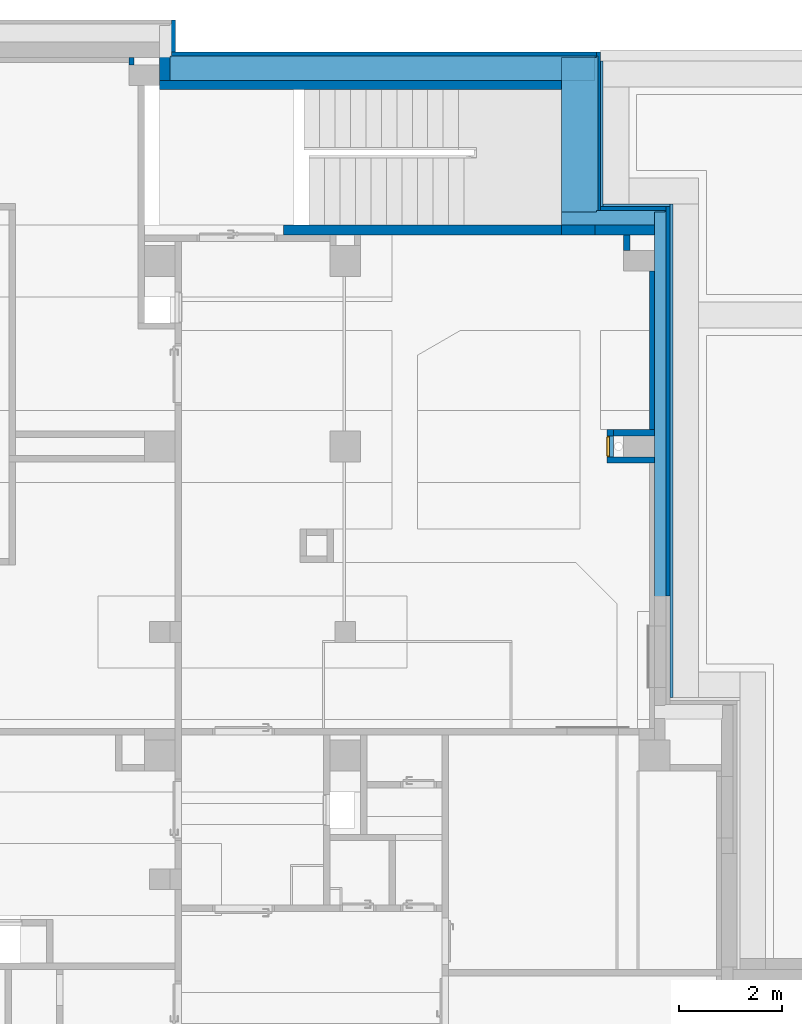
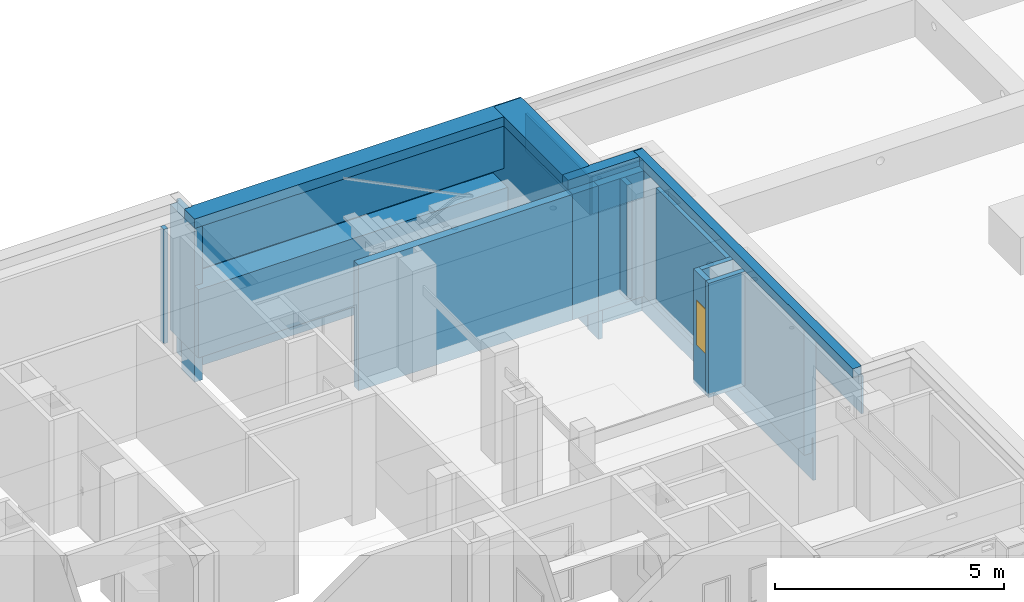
# One storey, part 42 of 84: 20 walls, 1 window, 1 opening.
"""IFC4 building model written with IfcOpenShell, lengths in metres."""

from ifc_helpers import new_model, entity, si_unit, converted_unit, derived_unit, frame, frame_2d, origin, origin_with_axes, place, context, subcontext, project, spatial, polyline, rectangle, outline, extrude, clip, bounded_halfspace, faceted_brep, source, transform, mapped, material, layer, layer_set, layer_usage, element, fill, save


model = new_model("IFC4")

# Units and contexts
model_context = context("Model", 3, precision=1e-05, world=origin())
body_context = subcontext(model_context, "Body", "Model", "MODEL_VIEW")
ifc_project = project(units=[si_unit("LENGTHUNIT", "METRE"), si_unit("AREAUNIT", "SQUARE_METRE"), si_unit("VOLUMEUNIT", "CUBIC_METRE"), si_unit("MASSUNIT", "GRAM", prefix="KILO"), converted_unit("PLANEANGLEUNIT", "DEGREE", entity("IfcPlaneAngleMeasure", 0.0174532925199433), si_unit("PLANEANGLEUNIT", "RADIAN"), dimensions=[0, 0, 0, 0, 0, 0, 0]), derived_unit("THERMALTRANSMITTANCEUNIT", [(si_unit("POWERUNIT", "WATT"), 1), (si_unit("THERMODYNAMICTEMPERATUREUNIT", "KELVIN"), -1), (si_unit("LENGTHUNIT", "METRE"), -2)]), derived_unit("VOLUMETRICFLOWRATEUNIT", [(si_unit("LENGTHUNIT", "METRE"), 3), (converted_unit("TIMEUNIT", "hour", entity("IfcTimeMeasure", 3600.0), si_unit("TIMEUNIT", "SECOND"), dimensions=[0, 0, 1, 0, 0, 0, 0]), -1), (si_unit("LENGTHUNIT", "METRE"), -1)])], contexts=[model_context])

# Site, building, storey
site_placement = place(None, origin())
site = spatial("IfcSite", under=ifc_project, at=site_placement, Name="3. ASŘ", CompositionType="ELEMENT")
building_placement = place(site_placement, origin())
building = spatial("IfcBuilding", under=site, at=building_placement, Name="Pavilon C", CompositionType="ELEMENT")
storey_placement = place(building_placement, frame((0.0, 0.0, -3.3)))
storey = spatial("IfcBuildingStorey", under=building, at=storey_placement, Name="Půdorys 1.PP", CompositionType="ELEMENT", Elevation=-3.3)

# Walls
ifc_material_1 = material(Name="ZDIVO Z CDm")
ifc_layer_1 = layer(ifc_material_1, 0.125)
ifc_layer_set_1 = layer_set([ifc_layer_1])
ifc_layer_usage_1 = layer_usage(ifc_layer_set_1, "AXIS2", "POSITIVE", 0.0)
wall_1_placement = place(storey_placement, frame((49.35, 29.3, -0.1), z_axis=(0.0, 0.0, 1.0), x_axis=(0.0, -1.0, 0.0)))
element("IfcWall", 1, at=wall_1_placement, inside=storey, material=ifc_layer_usage_1, Name="ZDIVO Z CDm", context=body_context, shape_type="SweptSolid", body=[
    extrude(rectangle(XDim=0.3, YDim=0.125, at=frame_2d((0.15, 0.0625), x_axis=(1.0, 0.0))), origin_with_axes(), (0.0, 0.0, 1.0), 3.05),
])
ifc_material_2 = material(Name="ZELEZOBETONOVÁ KCE")
ifc_layer_2 = layer(ifc_material_2, 0.2)
ifc_layer_set_2 = layer_set([ifc_layer_2])
ifc_layer_usage_2 = layer_usage(ifc_layer_set_2, "AXIS2", "POSITIVE", 0.0)
wall_2_placement = place(storey_placement, frame((48.15, 29.5, -0.4), z_axis=(0.0, 0.0, 1.0), x_axis=(-1.0, 0.0, 0.0)))
element("IfcWall", 2, at=wall_2_placement, inside=storey, material=ifc_layer_usage_2, Name="ZELEZOBETONOVÁ KCE", context=body_context, shape_type="SweptSolid", body=[
    extrude(rectangle(XDim=5.4, YDim=0.2, at=frame_2d((2.7, 0.1), x_axis=(1.0, 0.0))), origin_with_axes(), (0.0, 0.0, 1.0), 3.35),
])
ifc_material_3 = material(Name="ZELEZOBETONOVÁ KCE")
ifc_layer_3 = layer(ifc_material_3, 0.2)
ifc_material_4 = material(Name="LIGNOPOR")
ifc_layer_4 = layer(ifc_material_4, 0.025)
ifc_material_5 = material(Name="PÓROBETONOVÉ ZDIVO")
ifc_layer_5 = layer(ifc_material_5, 0.08)
ifc_layer_set_3 = layer_set([ifc_layer_3, ifc_layer_4, ifc_layer_5])
ifc_layer_usage_3 = layer_usage(ifc_layer_set_3, "AXIS2", "POSITIVE", 0.0)
wall_3_placement = place(storey_placement, frame((40.35, 33.37, -1.15), z_axis=(0.0, 0.0, 1.0), x_axis=(0.0, -1.0, 0.0)))
element("IfcWall", 3, at=wall_3_placement, inside=storey, material=ifc_layer_usage_3, Name="ZELEZOBETONOVÁ KCE", context=body_context, shape_type="Clipping", body=[
    clip(clip(clip(extrude(outline(polyline([(-1.07, 0.0), (0.0, 0.0), (0.0, 0.2), (-0.455000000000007, 0.2), (-0.455000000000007, 0.225), (-0.555, 0.225), (-0.555, 0.305), (-1.175, 0.305), (-1.175, 0.225), (-1.095, 0.225), (-1.095, 0.2), (-1.07, 0.2), (-1.07, 0.0)])), frame((1.07, 0.0, 0.0), z_axis=(0.0, 0.0, 1.0), x_axis=(1.0, 0.0, 0.0)), (0.0, 0.0, 1.0), 4.1), bounded_halfspace(frame((0.535, 0.1, 0.750000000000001), z_axis=(0.0, 0.0, 1.0), x_axis=(0.0, -1.0, 0.0)), True, origin_with_axes(), polyline([(0.0, 0.2), (0.0, 0.0), (1.07, 0.0), (1.07, 0.2), (0.0, 0.2)]))), bounded_halfspace(frame((0.604999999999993, 0.2125, 2.57), z_axis=(0.0, 0.0, 1.0), x_axis=(1.0, 0.0, 0.0)), True, origin_with_axes(), polyline([(0.594999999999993, 0.2), (0.614999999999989, 0.2), (0.614999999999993, 0.225), (0.594999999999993, 0.225), (0.594999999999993, 0.2)]))), bounded_halfspace(frame((0.275833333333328, 0.212499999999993, 1.15), z_axis=(0.0, 0.0, 1.0), x_axis=(-1.0, 0.0, 0.0)), True, origin_with_axes(), polyline([(0.515, 0.225), (-0.025, 0.225), (-0.025, 0.2), (0.0, 0.2), (0.594999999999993, 0.2), (0.594999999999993, 0.225), (0.515, 0.225)]))),
])
ifc_material_6 = material(Name="ZELEZOBETONOVÁ KCE")
ifc_layer_6 = layer(ifc_material_6, 0.62025641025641)
ifc_material_7 = material(Name="LIGNOPOR")
ifc_layer_7 = layer(ifc_material_7, 0.0250000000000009)
ifc_material_8 = material(Name="PÓROBETONOVÉ ZDIVO")
ifc_layer_8 = layer(ifc_material_8, 0.080000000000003)
ifc_layer_set_4 = layer_set([ifc_layer_6, ifc_layer_7, ifc_layer_8])
ifc_layer_usage_4 = layer_usage(ifc_layer_set_4, "AXIS2", "POSITIVE", 0.0)
wall_4_placement = place(storey_placement, frame((40.35, 32.13, -1.15)))
element("IfcWall", 4, at=wall_4_placement, inside=storey, material=ifc_layer_usage_4, Name="ZELEZOBETONOVÁ KCE", context=body_context, shape_type="Clipping", body=[
    clip(clip(clip(clip(clip(extrude(outline(polyline([(0.0, 0.0), (7.8, 0.0), (7.8, 0.62), (8.45, 0.62), (8.45, 0.645), (8.475, 0.645), (8.475, 0.725), (0.2, 0.725), (0.0, 0.745), (0.0, 0.0)])), origin_with_axes(), (0.0, 0.0, 1.0), 4.1), bounded_halfspace(frame((2.66666666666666, 0.263333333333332, 0.750000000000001), z_axis=(0.0, 0.0, 1.0), x_axis=(0.0, -1.0, 0.0)), True, origin_with_axes(), polyline([(0.0, 0.169999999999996), (0.0, 0.0), (7.8, 0.0), (7.8, 0.62), (0.2, 0.62), (0.2, 0.169999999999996), (0.0, 0.169999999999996)]))), bounded_halfspace(frame((4.22083333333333, 0.632500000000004, 1.15), z_axis=(0.0, 0.0, 1.0), x_axis=(1.0, 0.0, 0.0)), True, origin_with_axes(), polyline([(0.2, 0.62), (7.8, 0.62), (8.45, 0.619999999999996), (8.45, 0.645), (0.225, 0.645), (0.2, 0.645), (0.2, 0.62)]))), bounded_halfspace(frame((3.68055555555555, 0.390555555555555, 2.57), z_axis=(-7.48755341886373e-19, -1.48278107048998e-16, -1.0), x_axis=(0.0, -1.0, 4.78681421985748e-16)), True, origin_with_axes(), polyline([(0.2, 0.645), (0.2, 0.169999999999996), (0.0, 0.169999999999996), (0.0, 0.0), (7.8, 0.0), (7.8, 0.62), (8.45, 0.619999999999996), (8.45, 0.645), (0.225, 0.645), (0.2, 0.645)]))), bounded_halfspace(frame((0.2125, 0.685, 1.15), z_axis=(0.0, 0.0, -1.0), x_axis=(-1.0, 0.0, 0.0)), True, origin_with_axes(), polyline([(0.225, 0.725), (0.2, 0.725), (0.2, 0.645), (0.225, 0.645), (0.225, 0.725)]))), bounded_halfspace(frame((0.1, 0.695, 0.750000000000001), z_axis=(0.0, 0.0, -1.0), x_axis=(0.0, -1.0, 0.0)), True, origin_with_axes(), polyline([(0.0, 0.745), (0.0, 0.665), (0.2, 0.645), (0.2, 0.725), (0.0, 0.745)]))),
])
ifc_material_9 = material(Name="ZELEZOBETONOVÁ KCE")
ifc_layer_9 = layer(ifc_material_9, 0.45)
ifc_material_10 = material(Name="LIGNOPOR")
ifc_layer_10 = layer(ifc_material_10, 0.025)
ifc_layer_set_5 = layer_set([ifc_layer_9, ifc_layer_10])
ifc_layer_usage_5 = layer_usage(ifc_layer_set_5, "AXIS2", "POSITIVE", 0.0)
wall_5_placement = place(storey_placement, frame((40.55, 32.3, 1.82)))
element("IfcWall", 5, at=wall_5_placement, inside=storey, material=ifc_layer_usage_5, Name="ZELEZOBETONOVÁ KCE", context=body_context, shape_type="SweptSolid", body=[
    extrude(outline(polyline([(0.0, 0.0), (8.25, 0.0), (8.25, 0.45), (8.275, 0.45), (8.275, 0.475), (0.025, 0.475), (0.025, 0.45), (0.0, 0.45), (0.0, 0.0)])), origin_with_axes(), (0.0, 0.0, 1.0), 1.13),
])
ifc_material_11 = material(Name="PÓROBETONOVÉ ZDIVO")
ifc_layer_11 = layer(ifc_material_11, 0.1)
ifc_layer_set_6 = layer_set([ifc_layer_11])
ifc_layer_usage_6 = layer_usage(ifc_layer_set_6, "AXIS2", "POSITIVE", 0.0)
wall_6_placement = place(storey_placement, frame((49.95, 25.525, -0.1), z_axis=(0.0, 0.0, 1.0), x_axis=(0.0, 1.0, 0.0)))
element("IfcWall", 6, at=wall_6_placement, inside=storey, material=ifc_layer_usage_6, Name="PÓROBETONOVÉ ZDIVO", context=body_context, shape_type="SweptSolid", body=[
    extrude(rectangle(XDim=3.075, YDim=0.1, at=frame_2d((1.5375, 0.05), x_axis=(1.0, 0.0))), origin_with_axes(), (0.0, 0.0, 1.0), 3.05),
])

# Wall, opening, window
ifc_material_12 = material(Name="ZDIVO Z CDm")
ifc_layer_12 = layer(ifc_material_12, 0.125)
ifc_layer_set_7 = layer_set([ifc_layer_12])
ifc_layer_usage_7 = layer_usage(ifc_layer_set_7, "AXIS2", "POSITIVE", 0.0)
wall_7_placement = place(storey_placement, frame((49.15, 25.0, -0.1), z_axis=(0.0, 0.0, 1.0), x_axis=(0.0, 1.0, 0.0)))
wall_7 = element("IfcWall", 7, at=wall_7_placement, inside=storey, material=ifc_layer_usage_7, Name="ZDIVO Z CDm", context=body_context, shape_type="SweptSolid", body=[
    extrude(rectangle(XDim=0.525, YDim=0.125, at=frame_2d((0.2625, 0.0625), x_axis=(1.0, 0.0))), origin_with_axes(), (0.0, 0.0, 1.0), 3.05),
])
opening_placement = place(wall_7_placement, frame((0.4, 0.125, 1.1), z_axis=(0.0, -1.0, 0.0), x_axis=(0.0, 0.0, 1.0)))
opening = element("IfcOpeningElement", 8, at=opening_placement, cuts=wall_7, Name="Okenní otvor", ObjectType="Opening", context=body_context, shape_type="SweptSolid", body=[
    extrude(outline(polyline([(0.0, 0.4), (1.2, 0.4), (1.2, 0.0), (0.0, 0.0), (0.0, 0.4)])), origin_with_axes(), (0.0, 0.0, 1.0), 0.125),
])
shared_shape = source(origin_with_axes(), body_context, "Body", "Brep", [
    faceted_brep([(0.0, 0.0600000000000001, 1.2), (0.0, 0.06, 4.91096680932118e-19), (0.02, 0.06, 4.91096680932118e-19), (0.02, 0.0600000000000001, 1.2), (0.0, 0.01, 6.61433067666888e-18), (0.0, 0.0100000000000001, 1.2), (0.02, 0.0100000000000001, 1.2), (0.02, 0.01, 6.61433067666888e-18)], [[[0, 1, 2, 3]], [[4, 5, 6, 7]], [[1, 0, 5, 4]], [[2, 1, 4, 7]], [[3, 2, 7, 6]], [[0, 3, 6, 5]]], orient=[[False], [False], [False], [False], [False], [False]]),
    faceted_brep([(0.38, 0.0600000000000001, 1.2), (0.38, 0.06, 4.91096680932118e-19), (0.4, 0.06, 4.91096680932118e-19), (0.4, 0.0600000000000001, 1.2), (0.38, 0.01, 6.61433067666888e-18), (0.38, 0.0100000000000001, 1.2), (0.4, 0.0100000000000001, 1.2), (0.4, 0.01, 6.61433067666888e-18)], [[[0, 1, 2, 3]], [[4, 5, 6, 7]], [[1, 0, 5, 4]], [[2, 1, 4, 7]], [[3, 2, 7, 6]], [[0, 3, 6, 5]]], orient=[[False], [False], [False], [False], [False], [False]]),
    faceted_brep([(0.02, 0.06, 0.02), (0.02, 0.06, 4.91096680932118e-19), (0.38, 0.06, 4.91096680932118e-19), (0.38, 0.06, 0.02), (0.02, 0.01, 6.61433067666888e-18), (0.02, 0.01, 0.02), (0.38, 0.01, 0.02), (0.38, 0.01, 6.61433067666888e-18)], [[[0, 1, 2, 3]], [[4, 5, 6, 7]], [[1, 0, 5, 4]], [[2, 1, 4, 7]], [[3, 2, 7, 6]], [[0, 3, 6, 5]]], orient=[[False], [False], [False], [False], [False], [False]]),
    faceted_brep([(0.02, 0.0600000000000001, 1.2), (0.02, 0.0600000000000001, 1.18), (0.38, 0.0600000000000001, 1.18), (0.38, 0.0600000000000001, 1.2), (0.02, 0.0100000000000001, 1.18), (0.02, 0.0100000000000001, 1.2), (0.38, 0.0100000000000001, 1.2), (0.38, 0.0100000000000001, 1.18)], [[[0, 1, 2, 3]], [[4, 5, 6, 7]], [[1, 0, 5, 4]], [[2, 1, 4, 7]], [[3, 2, 7, 6]], [[0, 3, 6, 5]]], orient=[[False], [False], [False], [False], [False], [False]]),
    faceted_brep([(0.02, 0.0100000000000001, 1.18), (0.02, 0.01, 0.02), (0.38, 0.01, 0.02), (0.38, 0.0100000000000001, 1.18), (0.02, 0.0, 0.02), (0.02, 1.4210854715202e-16, 1.18), (0.38, 1.4210854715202e-16, 1.18), (0.38, 0.0, 0.02)], [[[0, 1, 2, 3]], [[4, 5, 6, 7]], [[1, 0, 5, 4]], [[2, 1, 4, 7]], [[3, 2, 7, 6]], [[0, 3, 6, 5]]], orient=[[False], [False], [False], [False], [False], [False]]),
])
window_placement = place(opening_placement, frame((0.0, 0.400000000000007, -0.0100000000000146), z_axis=(1.0, 0.0, 0.0), x_axis=(0.0, -1.0, -1.22464679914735e-16)))
window = element("IfcWindow", 9, at=window_placement, inside=storey, Name="O01", OverallHeight=1.2, OverallWidth=0.4, PartitioningType="USERDEFINED", PredefinedType="WINDOW", context=body_context, shape_type="MappedRepresentation", body=[
    mapped(shared_shape, transform((0.0, 0.0, 0.0), x_axis=(1.0, 0.0, 0.0), y_axis=(0.0, -1.0, 0.0), z_axis=(0.0, 0.0, 1.0), scale=1.0)),
])
fill(opening, window)

# Walls
ifc_material_13 = material(Name="ZDIVO Z CDm")
ifc_layer_13 = layer(ifc_material_13, 0.125)
ifc_layer_set_8 = layer_set([ifc_layer_13])
ifc_layer_usage_8 = layer_usage(ifc_layer_set_8, "AXIS2", "POSITIVE", 0.0)
wall_8_placement = place(storey_placement, frame((49.95, 25.0, -0.1), z_axis=(0.0, 0.0, 1.0), x_axis=(-1.0, 0.0, 0.0)))
element("IfcWall", 10, at=wall_8_placement, inside=storey, material=ifc_layer_usage_8, Name="ZDIVO Z CDm", context=body_context, shape_type="SweptSolid", body=[
    extrude(rectangle(XDim=0.925, YDim=0.125, at=frame_2d((0.4625, 0.0625), x_axis=(1.0, 0.0))), origin_with_axes(), (0.0, 0.0, 1.0), 3.05),
])
ifc_material_14 = material(Name="ZDIVO Z CDm")
ifc_layer_14 = layer(ifc_material_14, 0.125)
ifc_layer_set_9 = layer_set([ifc_layer_14])
ifc_layer_usage_9 = layer_usage(ifc_layer_set_9, "AXIS2", "POSITIVE", 0.0)
wall_9_placement = place(storey_placement, frame((49.15, 25.4, -0.1)))
element("IfcWall", 11, at=wall_9_placement, inside=storey, material=ifc_layer_usage_9, Name="ZDIVO Z CDm", context=body_context, shape_type="SweptSolid", body=[
    extrude(rectangle(XDim=0.8, YDim=0.125, at=frame_2d((0.4, 0.0625), x_axis=(1.0, 0.0))), origin_with_axes(), (0.0, 0.0, 1.0), 3.05),
])
ifc_material_15 = material(Name="PÓROBETONOVÉ ZDIVO")
ifc_layer_15 = layer(ifc_material_15, 0.1)
ifc_layer_set_10 = layer_set([ifc_layer_15])
ifc_layer_usage_10 = layer_usage(ifc_layer_set_10, "AXIS2", "POSITIVE", 0.0)
wall_10_placement = place(storey_placement, frame((39.75, 32.75, -0.1), z_axis=(0.0, 0.0, 1.0), x_axis=(0.0, -1.0, 0.0)))
element("IfcWall", 12, at=wall_10_placement, inside=storey, material=ifc_layer_usage_10, Name="PÓROBETONOVÉ ZDIVO", context=body_context, shape_type="SweptSolid", body=[
    extrude(rectangle(XDim=0.15, YDim=0.1, at=frame_2d((0.075, 0.05), x_axis=(1.0, 0.0))), origin_with_axes(), (0.0, 0.0, 1.0), 3.05),
])
ifc_material_16 = material(Name="ZELEZOBETONOVÁ KCE")
ifc_layer_16 = layer(ifc_material_16, 0.2)
ifc_material_17 = material(Name="LIGNOPOR")
ifc_layer_17 = layer(ifc_material_17, 0.025)
ifc_material_18 = material(Name="PÓROBETONOVÉ ZDIVO")
ifc_layer_18 = layer(ifc_material_18, 0.08)
ifc_layer_set_11 = layer_set([ifc_layer_16, ifc_layer_17, ifc_layer_18])
ifc_layer_usage_11 = layer_usage(ifc_layer_set_11, "AXIS2", "POSITIVE", 0.0)
wall_11_placement = place(storey_placement, frame((49.95, 29.75, -1.15), z_axis=(0.0, 0.0, 1.0), x_axis=(0.0, -1.0, 0.0)))
element("IfcWall", 13, at=wall_11_placement, inside=storey, material=ifc_layer_usage_11, Name="ZELEZOBETONOVÁ KCE", context=body_context, shape_type="Clipping", body=[
    clip(clip(clip(extrude(outline(polyline([(-7.555, 0.305), (-7.555, 0.225), (-7.475, 0.225), (-7.475, 0.2), (-7.45, 0.2), (-7.45, 0.0), (0.0, 0.0), (0.0, 0.305), (-7.555, 0.305)])), frame((7.45, 0.0, 0.0), z_axis=(0.0, 0.0, 1.0), x_axis=(1.0, 0.0, 0.0)), (0.0, 0.0, 1.0), 4.1), bounded_halfspace(frame((3.725, 0.1, 0.750000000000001), z_axis=(0.0, 0.0, 1.0), x_axis=(0.0, -1.0, 0.0)), True, origin_with_axes(), polyline([(0.0, 0.2), (0.0, 0.0), (7.45, 0.0), (7.45, 0.2), (0.0, 0.2)]))), bounded_halfspace(frame((2.97, 0.210000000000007, 1.15), z_axis=(0.0, 0.0, 1.0), x_axis=(0.0, -1.0, 0.0)), True, origin_with_axes(), polyline([(-0.025, 0.225000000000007), (-0.025, 0.200000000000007), (0.0, 0.2), (7.45, 0.2), (7.45, 0.225000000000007), (-0.025, 0.225000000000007)]))), bounded_halfspace(frame((2.933, 0.257000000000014, 3.95), z_axis=(0.0, -2.8421709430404e-15, -1.0), x_axis=(1.0, 0.0, -6.08357660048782e-17)), True, origin_with_axes(), polyline([(-0.025, 0.225000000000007), (7.45, 0.225000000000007), (7.45, 0.305000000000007), (-0.105, 0.305000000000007), (-0.105, 0.225000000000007), (-0.025, 0.225000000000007)]))),
])
ifc_material_19 = material(Name="ZELEZOBETONOVÁ KCE")
wall_12_placement = place(storey_placement, frame((48.8, 29.3, -1.15)))
element("IfcWall", 14, at=wall_12_placement, inside=storey, material=ifc_material_19, Name="ZELEZOBETONOVÁ KCE", context=body_context, shape_type="Clipping", body=[
    clip(clip(clip(extrude(outline(polyline([(0.0, 0.0), (1.15, 0.0), (1.15, 0.45), (1.35, 0.45), (1.35, 0.475), (1.375, 0.475), (1.375, 0.555), (0.105, 0.555), (0.105, 0.475), (0.025, 0.475), (0.025, 0.45), (0.0, 0.45), (0.0, 0.0)])), origin_with_axes(), (0.0, 0.0, 1.0), 4.1), bounded_halfspace(frame((0.667499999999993, 0.462500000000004, 1.15), z_axis=(0.0, 0.0, 1.0), x_axis=(1.0, 0.0, 0.0)), True, origin_with_axes(), polyline([(0.025, 0.45), (1.15, 0.45), (1.35, 0.45), (1.35, 0.475000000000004), (0.105, 0.475000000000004), (0.025, 0.475000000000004), (0.025, 0.45)]))), bounded_halfspace(frame((0.575, 0.225, 0.750000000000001), z_axis=(0.0, 0.0, 1.0), x_axis=(0.0, -1.0, 0.0)), True, origin_with_axes(), polyline([(0.0, 0.45), (0.0, 0.0), (1.15, 0.0), (1.15, 0.45), (0.0, 0.45)]))), bounded_halfspace(frame((0.862, 0.507, 3.95), z_axis=(0.0, 0.0, -1.0), x_axis=(1.0, -1.45519152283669e-13, 0.0)), True, origin_with_axes(), polyline([(1.35, 0.475000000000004), (1.375, 0.475), (1.375, 0.555), (0.105, 0.555), (0.105, 0.475), (1.35, 0.475000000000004)]))),
    clip(clip(clip(extrude(rectangle(XDim=0.005, YDim=0.025, at=frame_2d((-0.0025, -0.0125), x_axis=(-1.0, 0.0))), frame((0.0, 0.475, 0.0), z_axis=(0.0, 0.0, 1.0), x_axis=(1.0, 0.0, 0.0)), (0.0, 0.0, 1.0), 4.1), bounded_halfspace(frame((0.667499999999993, 0.462500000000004, 1.15), z_axis=(0.0, 0.0, 1.0), x_axis=(1.0, 0.0, 0.0)), True, origin_with_axes(), polyline([(0.025, 0.45), (1.15, 0.45), (1.35, 0.45), (1.35, 0.475000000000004), (0.105, 0.475000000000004), (0.025, 0.475000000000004), (0.025, 0.45)]))), bounded_halfspace(frame((0.575, 0.225, 0.750000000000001), z_axis=(0.0, 0.0, 1.0), x_axis=(0.0, -1.0, 0.0)), True, origin_with_axes(), polyline([(0.0, 0.45), (0.0, 0.0), (1.15, 0.0), (1.15, 0.45), (0.0, 0.45)]))), bounded_halfspace(frame((0.862, 0.507, 3.95), z_axis=(0.0, 0.0, -1.0), x_axis=(1.0, -1.45519152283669e-13, 0.0)), True, origin_with_axes(), polyline([(1.35, 0.475000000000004), (1.375, 0.475), (1.375, 0.555), (0.105, 0.555), (0.105, 0.475), (1.35, 0.475000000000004)]))),
])
ifc_material_20 = material(Name="ZELEZOBETONOVÁ KCE")
ifc_layer_19 = layer(ifc_material_20, 0.65)
ifc_material_21 = material(Name="LIGNOPOR")
ifc_layer_20 = layer(ifc_material_21, 0.025)
ifc_material_22 = material(Name="PÓROBETONOVÉ ZDIVO")
ifc_layer_21 = layer(ifc_material_22, 0.08)
ifc_layer_set_12 = layer_set([ifc_layer_19, ifc_layer_20, ifc_layer_21])
ifc_layer_usage_12 = layer_usage(ifc_layer_set_12, "AXIS2", "POSITIVE", 0.0)
wall_13_placement = place(storey_placement, frame((48.15, 32.75, -1.15), z_axis=(0.0, 0.0, 1.0), x_axis=(0.0, -1.0, 0.0)))
element("IfcWall", 15, at=wall_13_placement, inside=storey, material=ifc_layer_usage_12, Name="ZELEZOBETONOVÁ KCE", context=body_context, shape_type="Clipping", body=[
    clip(clip(clip(clip(clip(extrude(outline(polyline([(-3.555, 0.755), (-3.555, 0.675), (-3.475, 0.675), (-3.475, 0.65), (-3.45, 0.65), (-3.45, 0.0), (0.0, 0.0), (0.0, 0.755), (-3.555, 0.755)])), frame((3.45, 0.0, 0.0), z_axis=(0.0, 0.0, 1.0), x_axis=(1.0, 0.0, 0.0)), (0.0, 0.0, 1.0), 4.1), bounded_halfspace(frame((1.725, 0.325, 0.750000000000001), z_axis=(0.0, 0.0, 1.0), x_axis=(0.0, -1.0, 0.0)), True, origin_with_axes(), polyline([(0.0, 0.65), (0.0, 0.0), (3.45, 0.0), (3.45, 0.65), (0.0, 0.65)]))), bounded_halfspace(frame((1.4875, 0.662499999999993, 1.15), z_axis=(0.0, 0.0, 1.0), x_axis=(-1.0, 0.0, 0.0)), True, origin_with_axes(), polyline([(3.0, 0.675), (2.97499999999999, 0.675), (-0.0250000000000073, 0.675), (-0.0250000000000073, 0.65), (0.0, 0.65), (3.0, 0.65), (3.0, 0.675)]))), bounded_halfspace(frame((2.9875, 0.715, 1.15), z_axis=(0.0, 0.0, -1.0), x_axis=(1.0, 0.0, 0.0)), True, origin_with_axes(), polyline([(2.97499999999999, 0.675), (3.0, 0.675), (2.99999999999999, 0.755), (2.97499999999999, 0.755), (2.97499999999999, 0.675)]))), bounded_halfspace(frame((3.225, 0.715, 0.750000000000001), z_axis=(0.0, 0.0, -1.0), x_axis=(0.0, -1.0, 0.0)), True, origin_with_axes(), polyline([(3.0, 0.755), (3.0, 0.675), (3.45, 0.675), (3.45, 0.755), (3.0, 0.755)]))), bounded_halfspace(frame((1.143, 0.707, 3.95), z_axis=(7.38226218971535e-17, -5.61051926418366e-15, -1.0), x_axis=(0.0, 1.0, -5.6843418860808e-15)), True, origin_with_axes(), polyline([(2.97499999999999, 0.675), (2.97499999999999, 0.755), (-0.105, 0.755), (-0.105, 0.675), (-0.0250000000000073, 0.675), (2.97499999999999, 0.675)]))),
])
ifc_material_23 = material(Name="ZELEZOBETONOVÁ KCE")
ifc_layer_22 = layer(ifc_material_23, 0.2)
ifc_material_24 = material(Name="LIGNOPOR")
ifc_layer_23 = layer(ifc_material_24, 0.025)
ifc_layer_set_13 = layer_set([ifc_layer_22, ifc_layer_23])
ifc_layer_usage_13 = layer_usage(ifc_layer_set_13, "AXIS2", "POSITIVE", 0.0)
wall_14_placement = place(storey_placement, frame((49.95, 29.75, 2.95), z_axis=(0.0, 0.0, 1.0), x_axis=(0.0, -1.0, 0.0)))
element("IfcWall", 16, at=wall_14_placement, inside=storey, material=ifc_layer_usage_13, context=body_context, shape_type="SweptSolid", body=[
    extrude(outline(polyline([(-9.58, 0.0), (0.0, 0.0), (0.0, 0.2), (-0.025, 0.2), (-0.025, 0.225), (-9.605, 0.225), (-9.605, 0.2), (-9.58, 0.2), (-9.58, 0.0)])), frame((9.58, 0.0, 0.0), z_axis=(0.0, 0.0, 1.0), x_axis=(1.0, 0.0, 0.0)), (0.0, 0.0, 1.0), 0.25),
])
ifc_material_25 = material(Name="ZELEZOBETONOVÁ KCE")
ifc_layer_24 = layer(ifc_material_25, 0.250000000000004)
ifc_material_26 = material(Name="LIGNOPOR")
ifc_layer_25 = layer(ifc_material_26, 0.0249999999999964)
ifc_layer_set_14 = layer_set([ifc_layer_24, ifc_layer_25])
ifc_layer_usage_14 = layer_usage(ifc_layer_set_14, "AXIS2", "POSITIVE", 0.0)
wall_15_placement = place(storey_placement, frame((48.15, 29.5, 2.95), z_axis=(0.0, 0.0, 1.0), x_axis=(1.0, 2.02109933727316e-15, 0.0)))
element("IfcWall", 17, at=wall_15_placement, inside=storey, material=ifc_layer_usage_14, context=body_context, shape_type="SweptSolid", body=[
    extrude(outline(polyline([(0.0, 0.0), (1.80000000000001, 0.0), (1.80000000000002, 0.25), (2.00000000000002, 0.25), (2.00000000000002, 0.275), (0.675000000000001, 0.274999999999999), (0.675, 0.249999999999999), (5.05274834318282e-16, 0.249999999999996), (0.0, 0.0)])), origin_with_axes(), (0.0, 0.0, 1.0), 0.25),
])
ifc_material_27 = material(Name="ZELEZOBETONOVÁ KCE")
ifc_layer_26 = layer(ifc_material_27, 0.674999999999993)
ifc_material_28 = material(Name="LIGNOPOR")
ifc_layer_27 = layer(ifc_material_28, 0.025)
ifc_layer_set_15 = layer_set([ifc_layer_26, ifc_layer_27])
ifc_layer_usage_15 = layer_usage(ifc_layer_set_15, "AXIS2", "POSITIVE", 0.0)
wall_16_placement = place(storey_placement, frame((48.15, 32.75, 2.95), z_axis=(0.0, 0.0, 1.0), x_axis=(-4.85063840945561e-15, -1.0, 0.0)))
element("IfcWall", 18, at=wall_16_placement, inside=storey, material=ifc_layer_usage_15, context=body_context, shape_type="SweptSolid", body=[
    extrude(outline(polyline([(-3.0, 0.0), (0.0, 0.0), (-6.91215973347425e-15, 0.675), (-0.0250000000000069, 0.675), (-0.025000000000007, 0.7), (-3.02500000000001, 0.700000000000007), (-3.02500000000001, 0.675), (-3.00000000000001, 0.675), (-3.0, 0.0)])), frame((3.0, 0.0, 0.0), z_axis=(0.0, 0.0, 1.0), x_axis=(1.0, 0.0, 0.0)), (0.0, 0.0, 1.0), 0.25),
])
ifc_material_29 = material(Name="ZELEZOBETONOVÁ KCE")
ifc_layer_28 = layer(ifc_material_29, 0.45)
ifc_material_30 = material(Name="LIGNOPOR")
ifc_layer_29 = layer(ifc_material_30, 0.025)
ifc_layer_set_16 = layer_set([ifc_layer_28, ifc_layer_29])
ifc_layer_usage_16 = layer_usage(ifc_layer_set_16, "AXIS2", "POSITIVE", 0.0)
wall_17_placement = place(storey_placement, frame((40.35, 32.3, 2.95)))
element("IfcWall", 19, at=wall_17_placement, inside=storey, material=ifc_layer_usage_16, context=body_context, shape_type="SweptSolid", body=[
    extrude(outline(polyline([(0.0, 0.0), (7.8, 0.0), (7.8, 0.45), (8.475, 0.45), (8.475, 0.475), (0.2, 0.475), (0.2, 0.45), (0.0, 0.45), (0.0, 0.0)])), origin_with_axes(), (0.0, 0.0, 1.0), 0.25),
])
ifc_material_31 = material(Name="PERIMETR")
ifc_layer_30 = layer(ifc_material_31, 0.05)
ifc_layer_set_17 = layer_set([ifc_layer_30])
ifc_layer_usage_17 = layer_usage(ifc_layer_set_17, "AXIS2", "POSITIVE", 0.0)
wall_18_placement = place(storey_placement, frame((48.955, 29.855, 1.8), z_axis=(0.0, 0.0, 1.0), x_axis=(0.0, 1.0, 0.0)))
element("IfcWall", 20, at=wall_18_placement, inside=storey, material=ifc_layer_usage_17, Name="PERIMETR", context=body_context, shape_type="SweptSolid", body=[
    extrude(rectangle(XDim=2.82, YDim=0.05, at=frame_2d((1.41, 0.025), x_axis=(1.0, 0.0))), origin_with_axes(), (0.0, 0.0, 1.0), 1.0),
])
ifc_material_32 = material(Name="PERIMETR")
ifc_layer_31 = layer(ifc_material_32, 0.05)
ifc_layer_set_18 = layer_set([ifc_layer_31])
ifc_layer_usage_18 = layer_usage(ifc_layer_set_18, "AXIS2", "POSITIVE", 0.0)
wall_19_placement = place(storey_placement, frame((50.255, 29.905, 1.8), z_axis=(0.0, 0.0, 1.0), x_axis=(-1.0, 0.0, 0.0)))
element("IfcWall", 21, at=wall_19_placement, inside=storey, material=ifc_layer_usage_18, Name="PERIMETR", context=body_context, shape_type="SweptSolid", body=[
    extrude(rectangle(XDim=1.3, YDim=0.05, at=frame_2d((0.65, 0.025), x_axis=(1.0, 0.0))), origin_with_axes(), (0.0, 0.0, 1.0), 1.0),
])
ifc_material_33 = material(Name="PERIMETR")
ifc_layer_32 = layer(ifc_material_33, 0.05)
ifc_layer_set_19 = layer_set([ifc_layer_32])
ifc_layer_usage_19 = layer_usage(ifc_layer_set_19, "AXIS2", "POSITIVE", 0.0)
wall_20_placement = place(storey_placement, frame((50.305, 20.325, 1.8), z_axis=(0.0, 0.0, 1.0), x_axis=(0.0, 1.0, 0.0)))
element("IfcWall", 22, at=wall_20_placement, inside=storey, material=ifc_layer_usage_19, Name="PERIMETR", context=body_context, shape_type="SweptSolid", body=[
    extrude(rectangle(XDim=9.58, YDim=0.05, at=frame_2d((4.79, 0.025), x_axis=(1.0, 0.0))), origin_with_axes(), (0.0, 0.0, 1.0), 1.0),
])

save(model, "model.ifc")
